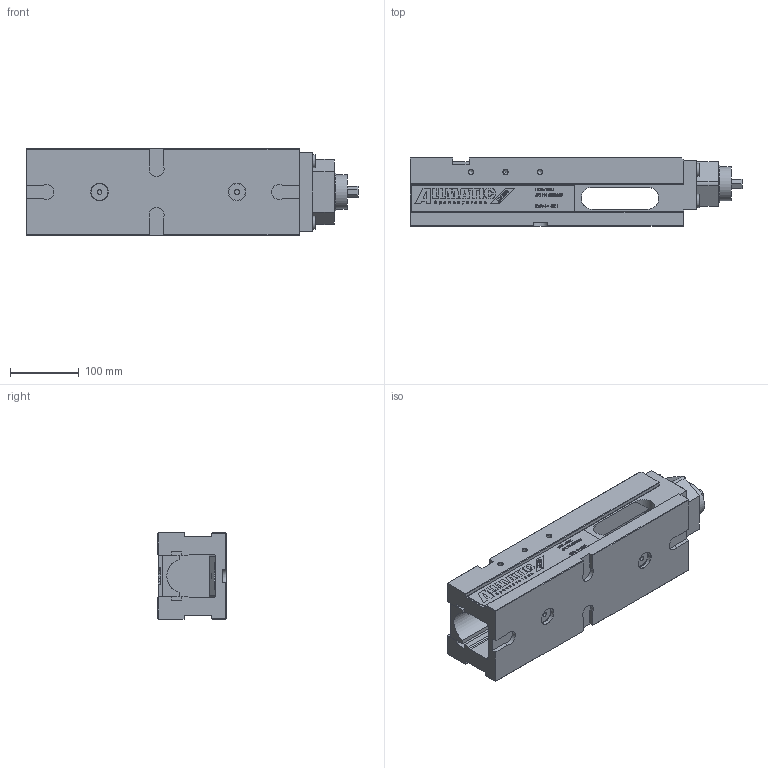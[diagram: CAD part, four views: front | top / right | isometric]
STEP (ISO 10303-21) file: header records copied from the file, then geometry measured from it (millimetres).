
FILE_DESCRIPTION (( 'STEP AP214' ), '1' );
FILE_NAME ('6921918000055.STEP', '2018-01-11T10:21:28', ( 'user' ), ( 'Hewlett-Packard Company' ), 'SwSTEP 2.0', 'SolidWorks 2016', '' );
FILE_SCHEMA (( 'AUTOMOTIVE_DESIGN' ));
Length unit declared in the file: millimetre
Products named in the file (1): 6921918000055
Bounding box: 483 x 100 x 126 mm (x, y, z)
Volume: 3291768.1 mm3; surface area: 377461.8 mm2
Topology: 1 solids, 1 shells, 2115 faces, 5745 edges, 3805 vertices
Faces by surface type: plane 1571, bspline 374, cylinder 120, cone 50
Full cylindrical faces by diameter (mm): 6.8 x8, 8.5 x4, 10.2 x14, 12 x4, 24 x2, 25 x2, 49.5 x1, 55 x1
Entity records: 109117 total; most frequent: CARTESIAN_POINT 37283, ORIENTED_EDGE 11280, DIRECTION 8584, EDGE_CURVE 5640, VECTOR 4604, LINE 4604, VERTEX_POINT 3774, EDGE_LOOP 2398
